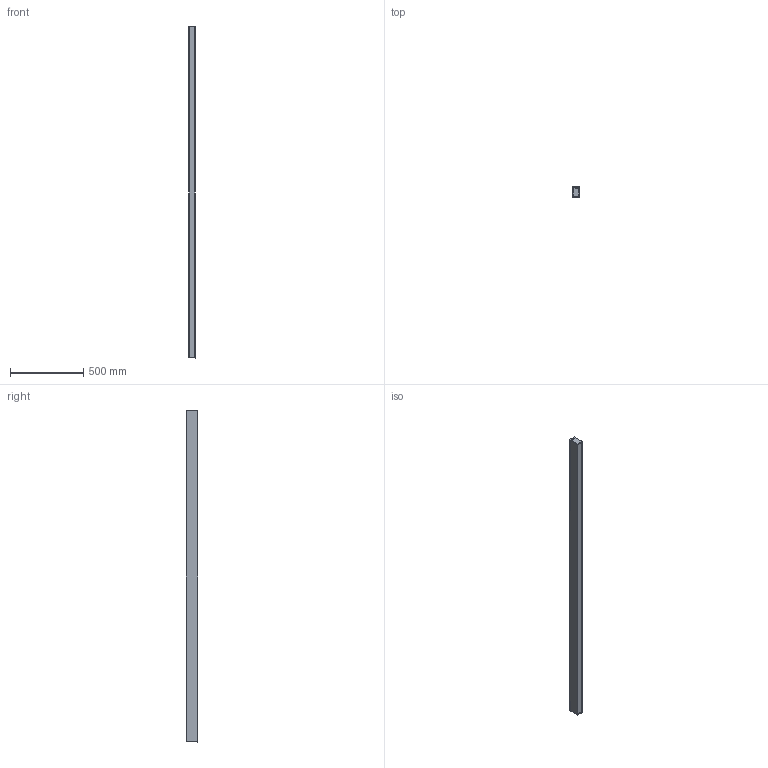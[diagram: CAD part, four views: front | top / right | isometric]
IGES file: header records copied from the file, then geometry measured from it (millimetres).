
Start section: SolidWorks IGES file using analytic representation for surfaces
Global section: file name: C:\Users\JoãoSantos\Desktop\02_3D.2D\01_2020\02_Linear\05_U45\03_Ceiling\U45_SURFACE_2271.IGS; native system: SolidWorks 2020; preprocessor: SolidWorks 2020; author: JoãoSantos; date: 201021.120217; units: millimetre
Bounding box: 45 x 77.5 x 2271 mm (x, y, z)
Surface area: 1090766.3 mm2 (no closed solid volume)
Topology: 0 solids, 0 shells, 200 faces, 1136 edges, 1120 vertices
Faces by surface type: bspline 150, revolution 50
